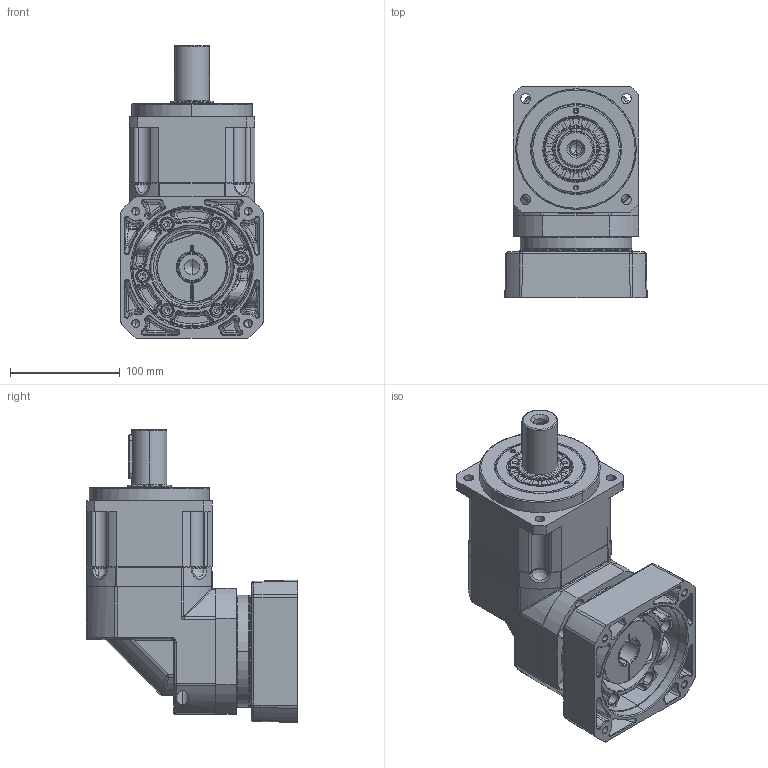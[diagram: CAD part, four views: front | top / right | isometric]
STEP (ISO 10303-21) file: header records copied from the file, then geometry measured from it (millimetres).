
FILE_DESCRIPTION (( 'STEP AP214' ), '1' );
FILE_NAME ('PAR115-L1-S2-P1 24-110-145-M8-64.STEP', '2025-02-15T06:16:44', ( '微软用户' ), ( '微软中国' ), 'SwSTEP 2.0', 'SolidWorks 2021', '' );
FILE_SCHEMA (( 'AUTOMOTIVE_DESIGN' ));
Length unit declared in the file: millimetre
Products named in the file (4): PAR-115D-L1-S1-10-145-M8-64.STEP; 12-PAR115F_________stp.stp.STEP; PAR115-L1-S2-P1 24-110-145-M8-64; PAR-115D-L1-S2-24-110-145-M8-64.STEP
Assembly tree (4 placements, depth 2):
  PAR115-L1-S2-P1 24-110-145-M8-64
    PAR-115D-L1-S2-24-110-145-M8-64.STEP
    12-PAR115F_________stp.stp.STEP
    PAR-115D-L1-S1-10-145-M8-64.STEP  x2
Bounding box: 130 x 193.01 x 267.5 mm (x, y, z)
Volume: 470742.6 mm3; surface area: 393873.7 mm2
Topology: 3 solids, 28 shells, 1945 faces, 4616 edges, 2754 vertices
Faces by surface type: bspline 742, plane 466, cylinder 440, cone 291, torus 6
Entity records: 156166 total; most frequent: CARTESIAN_POINT 117710, ORIENTED_EDGE 8902, DIRECTION 6412, EDGE_CURVE 4475, VERTEX_POINT 2727, AXIS2_PLACEMENT_3D 2542, EDGE_LOOP 2110, ADVANCED_FACE 1926
